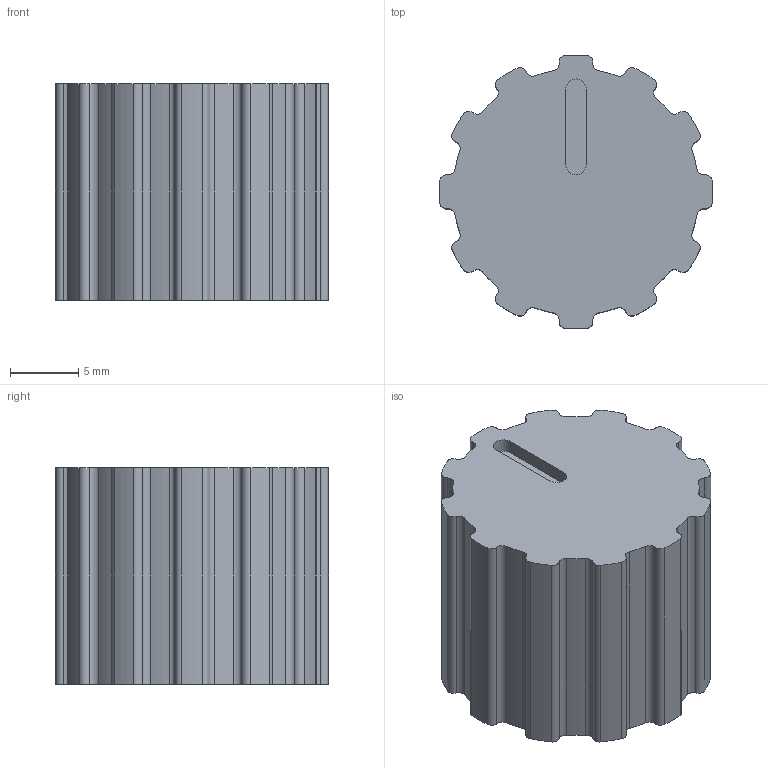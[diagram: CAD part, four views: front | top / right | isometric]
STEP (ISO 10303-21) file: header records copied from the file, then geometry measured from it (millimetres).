
FILE_DESCRIPTION(/* description */ (''),/* implementation_level */ '2;1');
FILE_NAME(/* name */ '6-06-1 Poti knob.step',/* time_stamp */ '2025-05-10T22:36:58+02:00',/* author */ (''),/* organization */ (''),/* preprocessor_version */ 'ST-DEVELOPER v20.1',/* originating_system */ 'Autodesk Translation Framework v14.4.0.0',/* authorisation */ '');
FILE_SCHEMA (('AUTOMOTIVE_DESIGN { 1 0 10303 214 3 1 1 }'));
Length unit declared in the file: millimetre
Products named in the file (1): 6-06-1 Poti knob
Bounding box: 19.99 x 19.99 x 15.8 mm (x, y, z)
Volume: 3353.2 mm3; surface area: 2114.4 mm2
Topology: 1 solids, 1 shells, 87 faces, 245 edges, 163 vertices
Faces by surface type: cylinder 77, plane 9, cone 1
Full cylindrical faces by diameter (mm): 16 x1
Entity records: 2946 total; most frequent: DIRECTION 576, CARTESIAN_POINT 496, ORIENTED_EDGE 490, EDGE_CURVE 245, AXIS2_PLACEMENT_3D 243, VERTEX_POINT 163, CIRCLE 155, LINE 90
